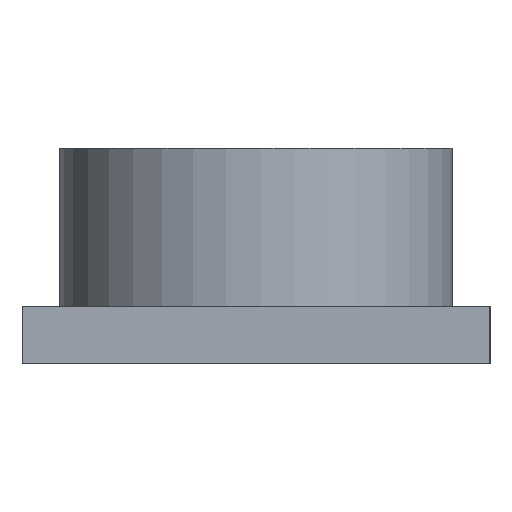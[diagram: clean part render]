
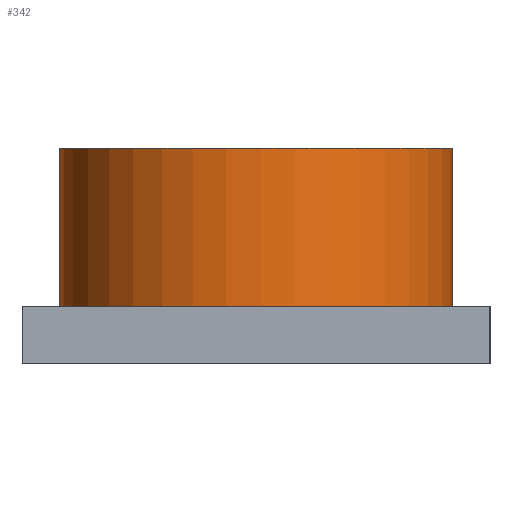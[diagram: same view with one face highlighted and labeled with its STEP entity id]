
A CAD part, left-side view. The second image highlights one B-rep face of the part: STEP entity #342.
In plain terms, the highlighted cylindrical face has radius 27.25 mm (diameter 54.5 mm), a full revolution.
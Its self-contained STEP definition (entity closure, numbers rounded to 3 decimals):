
#19=CYLINDRICAL_SURFACE('',#395,27.25);
#55=LINE('',#576,#85);
#85=VECTOR('',#487,27.25);
#103=FACE_OUTER_BOUND('',#127,.T.);
#127=EDGE_LOOP('',(#290,#291,#292,#293));
#133=CIRCLE('',#373,27.25);
#139=CIRCLE('',#394,27.25);
#153=VERTEX_POINT('',#517);
#167=VERTEX_POINT('',#573);
#181=EDGE_CURVE('',#153,#153,#133,.F.);
#208=EDGE_CURVE('',#167,#167,#139,.T.);
#209=EDGE_CURVE('',#153,#167,#55,.T.);
#290=ORIENTED_EDGE('',*,*,#181,.F.);
#291=ORIENTED_EDGE('',*,*,#209,.T.);
#292=ORIENTED_EDGE('',*,*,#208,.T.);
#293=ORIENTED_EDGE('',*,*,#209,.F.);
#342=ADVANCED_FACE('',(#103),#19,.T.);
#373=AXIS2_PLACEMENT_3D('',#518,#420,#421);
#394=AXIS2_PLACEMENT_3D('',#574,#483,#484);
#395=AXIS2_PLACEMENT_3D('',#575,#485,#486);
#420=DIRECTION('center_axis',(0.,0.,1.));
#421=DIRECTION('ref_axis',(1.,0.,0.));
#483=DIRECTION('center_axis',(0.,0.,-1.));
#484=DIRECTION('ref_axis',(-1.,0.,0.));
#485=DIRECTION('center_axis',(0.,0.,-1.));
#486=DIRECTION('ref_axis',(-0.878,0.479,0.));
#487=DIRECTION('',(0.,0.,1.));
#517=CARTESIAN_POINT('',(23.914,-13.064,8.));
#518=CARTESIAN_POINT('Origin',(0.,0.,8.));
#573=CARTESIAN_POINT('',(23.914,-13.064,30.));
#574=CARTESIAN_POINT('Origin',(0.,0.,30.));
#575=CARTESIAN_POINT('Origin',(0.,0.,19.));
#576=CARTESIAN_POINT('',(23.914,-13.064,19.));
